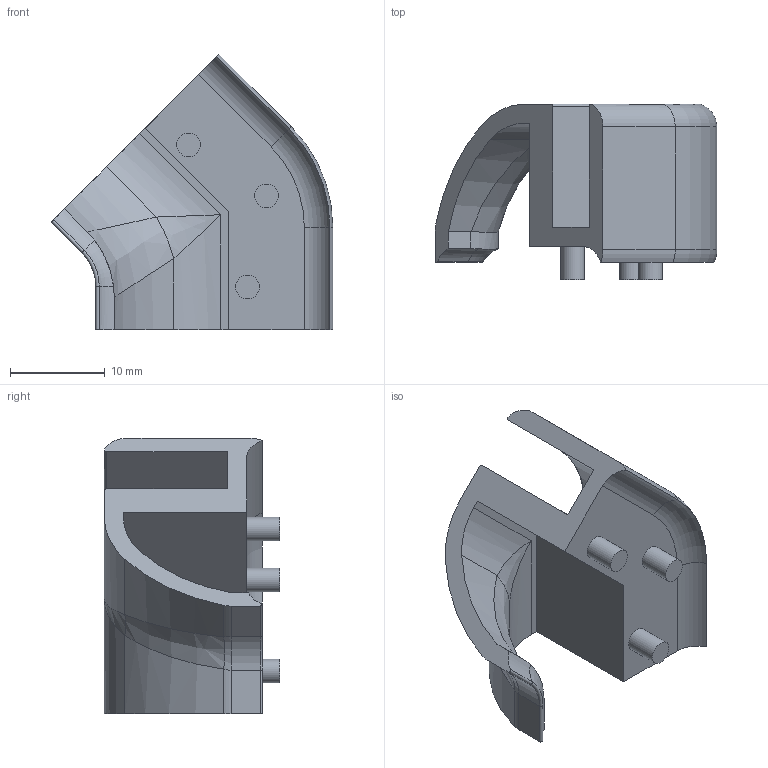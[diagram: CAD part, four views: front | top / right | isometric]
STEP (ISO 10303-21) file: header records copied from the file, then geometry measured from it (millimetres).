
FILE_DESCRIPTION (( 'STEP AP214' ), '1' );
FILE_NAME ('L15855.step', '2024-12-03T16:20:17', ( '' ), ( '' ), 'SwSTEP 2.0', 'SolidWorks 2023', '' );
FILE_SCHEMA (( 'AUTOMOTIVE_DESIGN' ));
Length unit declared in the file: millimetre
Products named in the file (1): L15855
Bounding box: 29.7 x 18.5 x 29.02 mm (x, y, z)
Volume: 3466.3 mm3; surface area: 3428.7 mm2
Topology: 1 solids, 1 shells, 65 faces, 156 edges, 94 vertices
Faces by surface type: cylinder 32, plane 21, torus 7, bspline 5
Full cylindrical faces by diameter (mm): 2.5 x3
Entity records: 1951 total; most frequent: CARTESIAN_POINT 456, DIRECTION 317, ORIENTED_EDGE 302, EDGE_CURVE 151, AXIS2_PLACEMENT_3D 121, VERTEX_POINT 94, LINE 75, VECTOR 75
